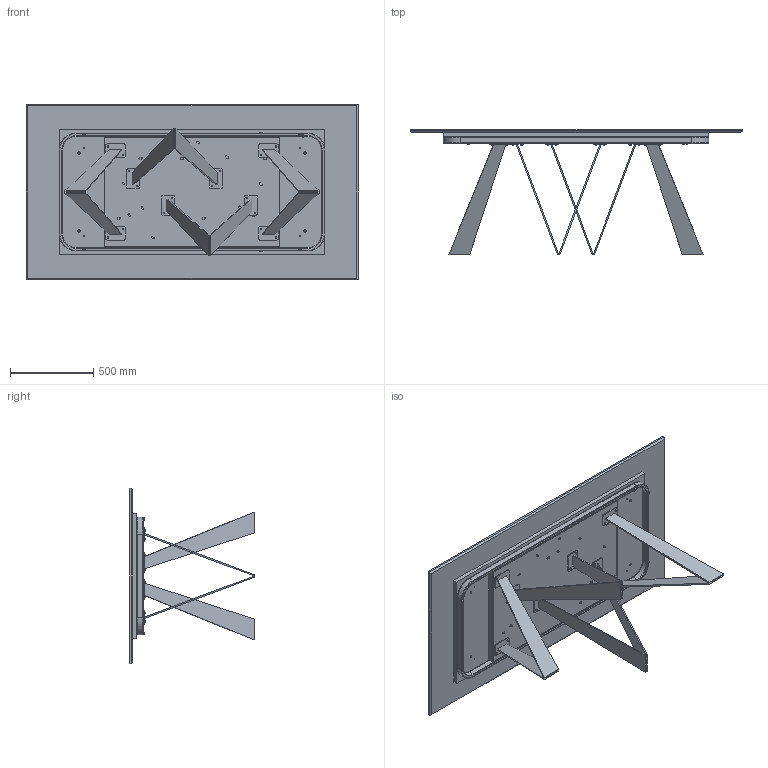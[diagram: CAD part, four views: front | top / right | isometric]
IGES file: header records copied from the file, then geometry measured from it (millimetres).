
Start section: SolidWorks IGES file using analytic representation for surfaces
Global section: file name: Y:\eforma\TECNICO\SOLIDWORKS\E-FORMA\1-TAVOLI\NOA TAVOLO\02 parts\NO21M_Noa_200x106x75h_Marble Rectangular.IGS; native system: SolidWorks 2022; preprocessor: SolidWorks 2022; author: eforma.tech; date: 240807.162449; units: millimetre
Bounding box: 2000 x 754.8 x 1060 mm (x, y, z)
Volume: 81231033.4 mm3; surface area: 10891419.6 mm2
Topology: 71 solids, 71 shells, 1718 faces, 3946 edges, 2331 vertices
Faces by surface type: revolution 1072, plane 646
